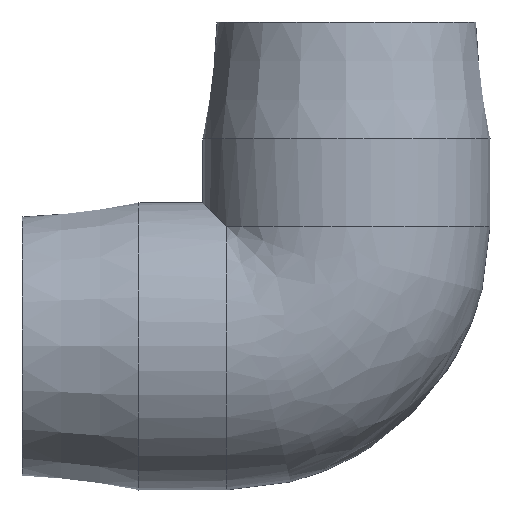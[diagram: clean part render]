
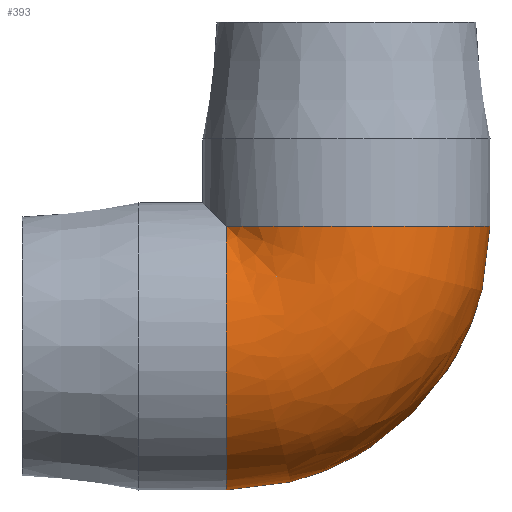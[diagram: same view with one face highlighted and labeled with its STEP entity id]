
A CAD part, front view. The second image highlights one B-rep face of the part: STEP entity #393.
In plain terms, the highlighted free-form (B-spline) face has degree [2, 2] with [9, 3] control points.
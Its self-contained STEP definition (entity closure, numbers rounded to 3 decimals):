
#27=(
BOUNDED_SURFACE()
B_SPLINE_SURFACE(2,2,((#666,#667,#668),(#669,#670,#671),(#672,#673,#674),
(#675,#676,#677),(#678,#679,#680),(#681,#682,#683),(#684,#685,#686),(#687,
#688,#689),(#690,#691,#692)),.UNSPECIFIED.,.F.,.F.,.F.)
B_SPLINE_SURFACE_WITH_KNOTS((3,2,2,2,3),(3,3),(-2.559,-1.28,
0.,1.28,2.559),(0.,1.571),
 .UNSPECIFIED.)
GEOMETRIC_REPRESENTATION_ITEM()
RATIONAL_B_SPLINE_SURFACE(((1.,0.707,1.),(0.802,
0.567,0.802),(1.,0.707,1.),(0.802,
0.567,0.802),(1.,0.707,1.),(0.802,
0.567,0.802),(1.,0.707,1.),(0.802,
0.567,0.802),(1.,0.707,1.)))
REPRESENTATION_ITEM('')
SURFACE()
);
#88=FACE_OUTER_BOUND('',#120,.T.);
#120=EDGE_LOOP('',(#285,#286,#287,#288));
#162=CIRCLE('',#454,48.5);
#163=CIRCLE('',#455,48.5);
#164=CIRCLE('',#456,48.5);
#165=CIRCLE('',#457,48.5);
#193=VERTEX_POINT('',#693);
#194=VERTEX_POINT('',#694);
#195=VERTEX_POINT('',#696);
#196=VERTEX_POINT('',#698);
#229=EDGE_CURVE('',#193,#194,#162,.T.);
#230=EDGE_CURVE('',#194,#195,#163,.T.);
#231=EDGE_CURVE('',#195,#196,#164,.T.);
#232=EDGE_CURVE('',#196,#193,#165,.T.);
#285=ORIENTED_EDGE('',*,*,#229,.T.);
#286=ORIENTED_EDGE('',*,*,#230,.T.);
#287=ORIENTED_EDGE('',*,*,#231,.T.);
#288=ORIENTED_EDGE('',*,*,#232,.T.);
#393=ADVANCED_FACE('',(#88),#27,.F.);
#454=AXIS2_PLACEMENT_3D('',#695,#533,#534);
#455=AXIS2_PLACEMENT_3D('',#697,#535,#536);
#456=AXIS2_PLACEMENT_3D('',#699,#537,#538);
#457=AXIS2_PLACEMENT_3D('',#700,#539,#540);
#533=DIRECTION('center_axis',(0.,0.,
-1.));
#534=DIRECTION('ref_axis',(-1.,0.,0.));
#535=DIRECTION('center_axis',(0.,0.,
-1.));
#536=DIRECTION('ref_axis',(-1.,0.,0.));
#537=DIRECTION('center_axis',(1.,0.,0.));
#538=DIRECTION('ref_axis',(0.,0.,-1.));
#539=DIRECTION('center_axis',(1.,0.,0.));
#540=DIRECTION('ref_axis',(0.,0.,-1.));
#666=CARTESIAN_POINT('Ctrl Pts',(-40.5,26.683,40.5));
#667=CARTESIAN_POINT('Ctrl Pts',(-40.5,26.683,40.5));
#668=CARTESIAN_POINT('Ctrl Pts',(-40.5,26.683,40.5));
#669=CARTESIAN_POINT('Ctrl Pts',(-40.5,56.822,20.643));
#670=CARTESIAN_POINT('Ctrl Pts',(-20.643,56.822,20.643));
#671=CARTESIAN_POINT('Ctrl Pts',(-20.643,56.822,40.5));
#672=CARTESIAN_POINT('Ctrl Pts',(-40.5,46.457,-13.928));
#673=CARTESIAN_POINT('Ctrl Pts',(13.928,46.457,-13.928));
#674=CARTESIAN_POINT('Ctrl Pts',(13.928,46.457,40.5));
#675=CARTESIAN_POINT('Ctrl Pts',(-40.5,36.092,-48.5));
#676=CARTESIAN_POINT('Ctrl Pts',(48.5,36.092,-48.5));
#677=CARTESIAN_POINT('Ctrl Pts',(48.5,36.092,40.5));
#678=CARTESIAN_POINT('Ctrl Pts',(-40.5,0.,-48.5));
#679=CARTESIAN_POINT('Ctrl Pts',(48.5,0.,-48.5));
#680=CARTESIAN_POINT('Ctrl Pts',(48.5,0.,40.5));
#681=CARTESIAN_POINT('Ctrl Pts',(-40.5,-36.092,-48.5));
#682=CARTESIAN_POINT('Ctrl Pts',(48.5,-36.092,-48.5));
#683=CARTESIAN_POINT('Ctrl Pts',(48.5,-36.092,40.5));
#684=CARTESIAN_POINT('Ctrl Pts',(-40.5,-46.457,-13.928));
#685=CARTESIAN_POINT('Ctrl Pts',(13.928,-46.457,-13.928));
#686=CARTESIAN_POINT('Ctrl Pts',(13.928,-46.457,40.5));
#687=CARTESIAN_POINT('Ctrl Pts',(-40.5,-56.822,20.643));
#688=CARTESIAN_POINT('Ctrl Pts',(-20.643,-56.822,20.643));
#689=CARTESIAN_POINT('Ctrl Pts',(-20.643,-56.822,40.5));
#690=CARTESIAN_POINT('Ctrl Pts',(-40.5,-26.683,40.5));
#691=CARTESIAN_POINT('Ctrl Pts',(-40.5,-26.683,40.5));
#692=CARTESIAN_POINT('Ctrl Pts',(-40.5,-26.683,40.5));
#693=CARTESIAN_POINT('',(-40.5,26.683,40.5));
#694=CARTESIAN_POINT('',(0.,-48.5,40.5));
#695=CARTESIAN_POINT('Origin',(0.,0.,
40.5));
#696=CARTESIAN_POINT('',(-40.5,-26.683,40.5));
#697=CARTESIAN_POINT('Origin',(0.,0.,
40.5));
#698=CARTESIAN_POINT('',(-40.5,-48.5,0.));
#699=CARTESIAN_POINT('Origin',(-40.5,0.,0.));
#700=CARTESIAN_POINT('Origin',(-40.5,0.,0.));
